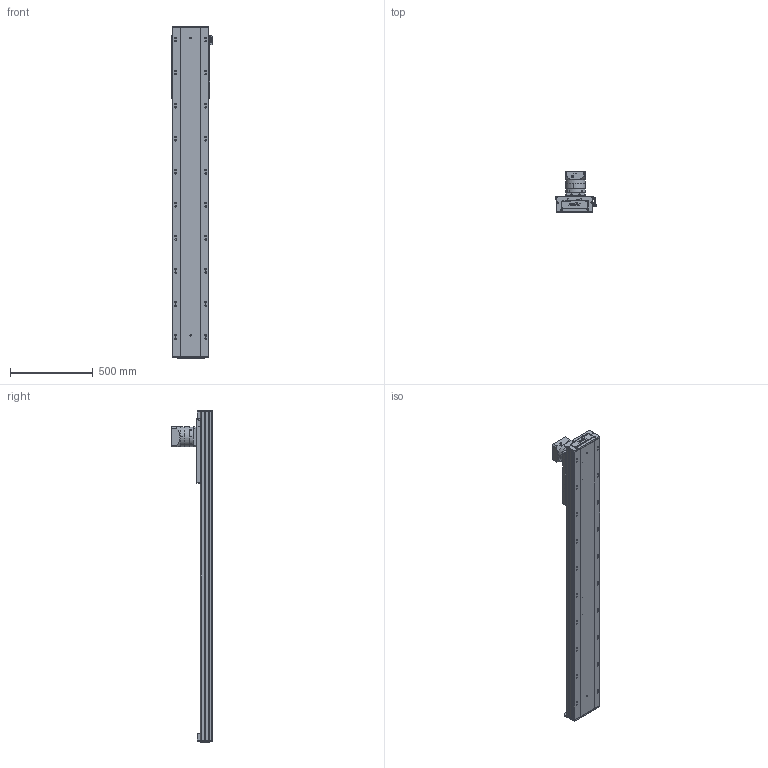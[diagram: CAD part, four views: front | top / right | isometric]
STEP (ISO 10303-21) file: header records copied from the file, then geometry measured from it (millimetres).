
FILE_DESCRIPTION (( 'STEP AP203' ), '1' );
FILE_NAME ('RY220-C-300-UK.SLDASM_1500.step', '2022-08-01T05:59:23', ( '' ), ( '' ), 'SwSTEP 2.0', 'SolidWorks 2016', '' );
FILE_SCHEMA (( 'CONFIG_CONTROL_DESIGN' ));
Length unit declared in the file: millimetre
Products named in the file (10): PF115L1-S2-22-58-110-145-M8; RY220喘沭俋离覜茼え; RY220-齿条模组电机安装板; 滅袉蝶輸ㄗG412隅秶ㄘ; RY220菁釱MK-300_1500; 覜茼ん674; RY220-C-300-UK.SLDASM_1500; RY140直线电机感应器674光电安装座; RY220喘沭綴裔啣; RY220喘沭賑輸
Assembly tree (12 placements, depth 2):
  RY220-C-300-UK.SLDASM_1500
    RY220菁釱MK-300_1500
    RY220喘沭賑輸
    RY220-齿条模组电机安装板
    PF115L1-S2-22-58-110-145-M8
    RY220喘沭綴裔啣  x2
    滅袉蝶輸ㄗG412隅秶ㄘ  x2
    RY140直线电机感应器674光电安装座
    覜茼ん674  x2
    RY220喘沭俋离覜茼え
Bounding box: 247 x 244.5 x 2009 mm (x, y, z)
Volume: 15088196.8 mm3; surface area: 3018064.4 mm2
Topology: 18 solids, 26 shells, 2078 faces, 5575 edges, 3528 vertices
Faces by surface type: cylinder 965, plane 751, cone 200, bspline 162
Entity records: 65741 total; most frequent: CARTESIAN_POINT 18014, DIRECTION 9775, ORIENTED_EDGE 9650, EDGE_CURVE 4825, AXIS2_PLACEMENT_3D 3717, VERTEX_POINT 3154, EDGE_LOOP 2375, LINE 2341
